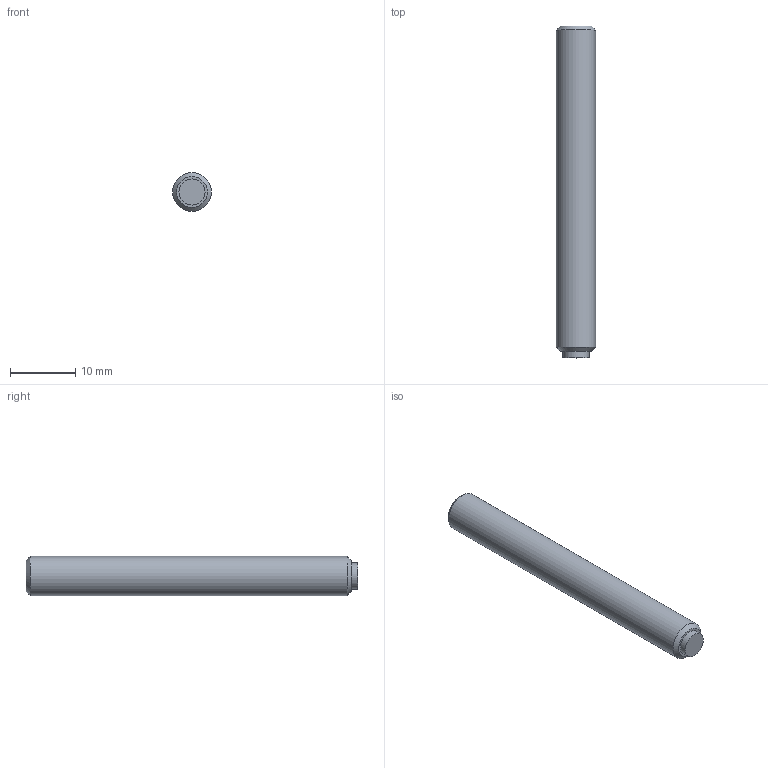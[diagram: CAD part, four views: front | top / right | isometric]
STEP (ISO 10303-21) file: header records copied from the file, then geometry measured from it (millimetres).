
FILE_DESCRIPTION( ( 'STEP AP203' ), '1' );
FILE_NAME( 'C:/Temp/Ganter_Step_05_03_2020/data/3_2/gn913_3/Grub screw GN 913.3-M6-50-MS.stp', '2020-03-13T05:35:49', ( 'License CC BY-ND 4.0' ), ( 'CADENAS' ), ' ', 'PARTsolutions', ' ' );
FILE_SCHEMA( ( 'CONFIG_CONTROL_DESIGN' ) );
Length unit declared in the file: millimetre
Products named in the file (1): _Grub screw GN 913.3-M6-50-MS
Bounding box: 6 x 51 x 6 mm (x, y, z)
Volume: 1392.4 mm3; surface area: 1033.4 mm2
Topology: 1 solids, 1 shells, 14 faces, 28 edges, 18 vertices
Faces by surface type: plane 10, cylinder 2, cone 2
Full cylindrical faces by diameter (mm): 4 x1, 6 x1
Entity records: 386 total; most frequent: DIRECTION 60, CARTESIAN_POINT 57, ORIENTED_EDGE 48, EDGE_CURVE 24, AXIS2_PLACEMENT_3D 21, EDGE_LOOP 20, VERTEX_POINT 18, LINE 18
